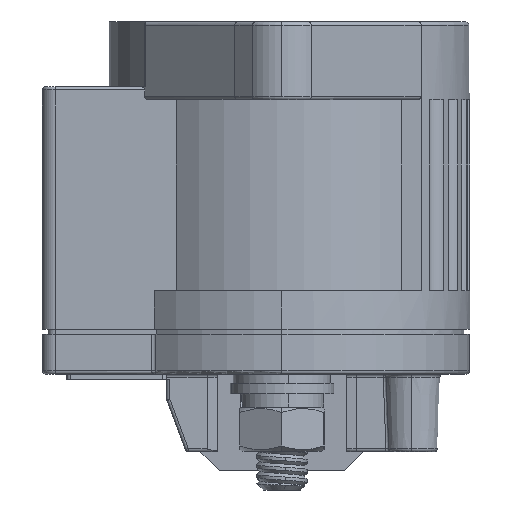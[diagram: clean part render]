
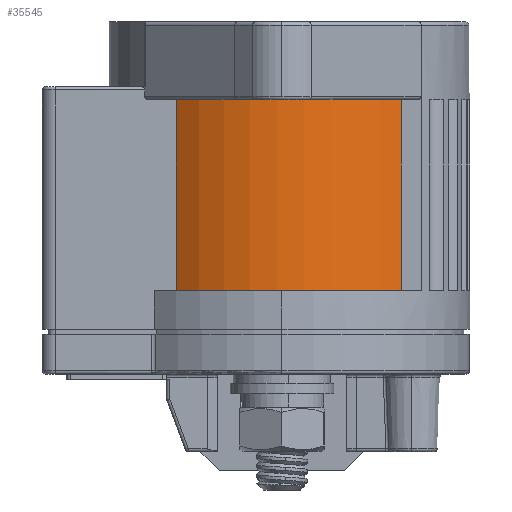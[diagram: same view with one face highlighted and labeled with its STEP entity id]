
A CAD part, left-side view. The second image highlights one B-rep face of the part: STEP entity #35545.
In plain terms, the highlighted cylindrical face has radius 26.8 mm (diameter 53.6 mm), a partial arc.
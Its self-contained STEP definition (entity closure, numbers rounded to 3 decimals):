
#929 = CARTESIAN_POINT ( 'NONE',  ( 13.278, 7.359, 43.075 ) ) ;
#3773 = ORIENTED_EDGE ( 'NONE', *, *, #46664, .T. ) ;
#3880 = EDGE_CURVE ( 'NONE', #27178, #16813, #62668, .T. ) ;
#5760 = EDGE_CURVE ( 'NONE', #16813, #68788, #7935, .T. ) ;
#6955 = CARTESIAN_POINT ( 'NONE',  ( -6.172, -11.079, 43.075 ) ) ;
#7249 = FACE_OUTER_BOUND ( 'NONE', #67387, .T. ) ;
#7935 = LINE ( 'NONE', #59837, #12193 ) ;
#8740 = DIRECTION ( 'NONE',  ( 0., 0., -1. ) ) ;
#9363 = DIRECTION ( 'NONE',  ( 0., 0., 1. ) ) ;
#12193 = VECTOR ( 'NONE', #59625, 1000. ) ;
#13727 = AXIS2_PLACEMENT_3D ( 'NONE', #13942, #50846, #67078 ) ;
#13942 = CARTESIAN_POINT ( 'NONE',  ( 13.278, 7.359, 72.575 ) ) ;
#14533 = CARTESIAN_POINT ( 'NONE',  ( -6.172, -11.079, 72.575 ) ) ;
#14775 = CARTESIAN_POINT ( 'NONE',  ( -7.972, 23.689, 72.575 ) ) ;
#16813 = VERTEX_POINT ( 'NONE', #33277 ) ;
#19953 = CARTESIAN_POINT ( 'NONE',  ( -6.172, -11.079, 43.075 ) ) ;
#25188 = CARTESIAN_POINT ( 'NONE',  ( 13.278, 7.359, 43.075 ) ) ;
#27178 = VERTEX_POINT ( 'NONE', #6955 ) ;
#28592 = LINE ( 'NONE', #19953, #58840 ) ;
#28692 = ORIENTED_EDGE ( 'NONE', *, *, #5760, .F. ) ;
#30343 = AXIS2_PLACEMENT_3D ( 'NONE', #25188, #8740, #67499 ) ;
#33277 = CARTESIAN_POINT ( 'NONE',  ( -7.972, 23.689, 43.075 ) ) ;
#33390 = DIRECTION ( 'NONE',  ( 1., 0., 0. ) ) ;
#35545 = ADVANCED_FACE ( 'NONE', ( #7249 ), #61937, .T. ) ;
#37765 = EDGE_CURVE ( 'NONE', #68703, #68788, #65041, .T. ) ;
#46664 = EDGE_CURVE ( 'NONE', #27178, #68703, #28592, .T. ) ;
#49564 = DIRECTION ( 'NONE',  ( 0., 0., 1. ) ) ;
#49606 = ORIENTED_EDGE ( 'NONE', *, *, #37765, .T. ) ;
#50846 = DIRECTION ( 'NONE',  ( 0., 0., -1. ) ) ;
#58840 = VECTOR ( 'NONE', #9363, 1000. ) ;
#59625 = DIRECTION ( 'NONE',  ( 0., 0., 1. ) ) ;
#59837 = CARTESIAN_POINT ( 'NONE',  ( -7.972, 23.689, 43.075 ) ) ;
#61632 = AXIS2_PLACEMENT_3D ( 'NONE', #929, #49564, #33390 ) ;
#61937 = CYLINDRICAL_SURFACE ( 'NONE', #61632, 26.8 ) ;
#62668 = CIRCLE ( 'NONE', #30343, 26.8 ) ;
#65041 = CIRCLE ( 'NONE', #13727, 26.8 ) ;
#67078 = DIRECTION ( 'NONE',  ( 1., 0., 0. ) ) ;
#67387 = EDGE_LOOP ( 'NONE', ( #3773, #49606, #28692, #68057 ) ) ;
#67499 = DIRECTION ( 'NONE',  ( -1., 0., 0. ) ) ;
#68057 = ORIENTED_EDGE ( 'NONE', *, *, #3880, .F. ) ;
#68703 = VERTEX_POINT ( 'NONE', #14533 ) ;
#68788 = VERTEX_POINT ( 'NONE', #14775 ) ;
